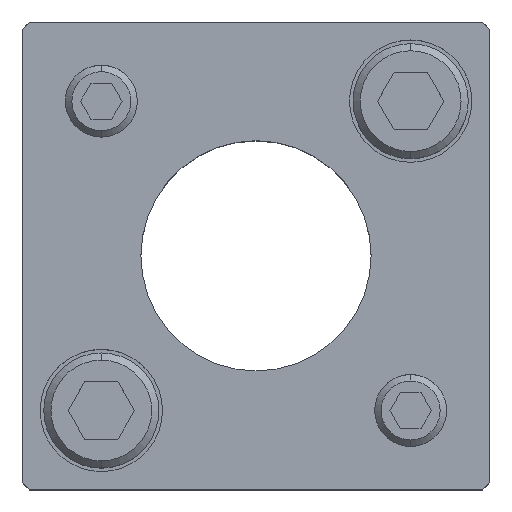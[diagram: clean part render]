
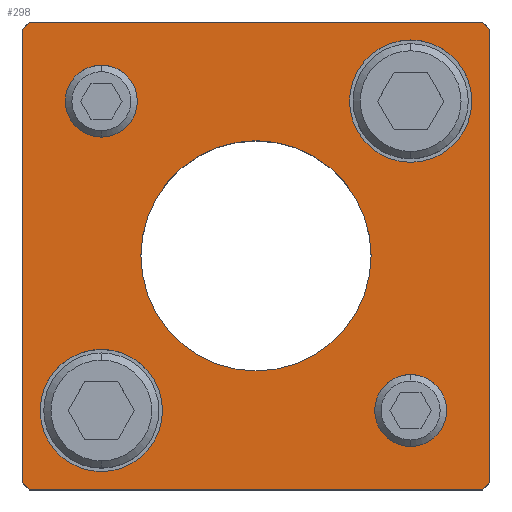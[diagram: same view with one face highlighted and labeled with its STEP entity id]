
A CAD part, top view. The second image highlights one B-rep face of the part: STEP entity #298.
In plain terms, the highlighted planar face has unit normal (0, 0, 1).
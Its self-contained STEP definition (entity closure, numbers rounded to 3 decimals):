
#153=PLANE('',#2436);
#220=FACE_BOUND('',#611,.T.);
#221=FACE_BOUND('',#612,.T.);
#222=FACE_BOUND('',#613,.T.);
#223=FACE_BOUND('',#614,.T.);
#224=FACE_BOUND('',#615,.T.);
#225=FACE_BOUND('',#616,.T.);
#298=ADVANCED_FACE('',(#220,#221,#222,#223,#224,#225),#153,.T.);
#611=EDGE_LOOP('',(#1281,#1282,#1283,#1284,#1285,#1286,#1287,#1288));
#612=EDGE_LOOP('',(#1289,#1290));
#613=EDGE_LOOP('',(#1291,#1292));
#614=EDGE_LOOP('',(#1293,#1294));
#615=EDGE_LOOP('',(#1295,#1296));
#616=EDGE_LOOP('',(#1297,#1298));
#759=LINE('',#3542,#941);
#760=LINE('',#3545,#942);
#761=LINE('',#3547,#943);
#762=LINE('',#3549,#944);
#763=LINE('',#3551,#945);
#764=LINE('',#3553,#946);
#765=LINE('',#3555,#947);
#766=LINE('',#3557,#948);
#941=VECTOR('',#2839,1.);
#942=VECTOR('',#2840,1.);
#943=VECTOR('',#2841,1.);
#944=VECTOR('',#2842,1.);
#945=VECTOR('',#2843,1.);
#946=VECTOR('',#2844,1.);
#947=VECTOR('',#2845,1.);
#948=VECTOR('',#2846,1.);
#1281=ORIENTED_EDGE('',*,*,#2001,.T.);
#1282=ORIENTED_EDGE('',*,*,#2002,.T.);
#1283=ORIENTED_EDGE('',*,*,#2003,.T.);
#1284=ORIENTED_EDGE('',*,*,#2004,.T.);
#1285=ORIENTED_EDGE('',*,*,#2005,.T.);
#1286=ORIENTED_EDGE('',*,*,#2006,.T.);
#1287=ORIENTED_EDGE('',*,*,#2007,.T.);
#1288=ORIENTED_EDGE('',*,*,#2008,.T.);
#1289=ORIENTED_EDGE('',*,*,#2009,.F.);
#1290=ORIENTED_EDGE('',*,*,#2010,.F.);
#1291=ORIENTED_EDGE('',*,*,#2011,.F.);
#1292=ORIENTED_EDGE('',*,*,#2012,.F.);
#1293=ORIENTED_EDGE('',*,*,#1987,.F.);
#1294=ORIENTED_EDGE('',*,*,#1983,.F.);
#1295=ORIENTED_EDGE('',*,*,#1981,.F.);
#1296=ORIENTED_EDGE('',*,*,#1977,.F.);
#1297=ORIENTED_EDGE('',*,*,#2013,.T.);
#1298=ORIENTED_EDGE('',*,*,#2014,.T.);
#1751=VERTEX_POINT('',#3493);
#1752=VERTEX_POINT('',#3494);
#1755=VERTEX_POINT('',#3506);
#1756=VERTEX_POINT('',#3507);
#1767=VERTEX_POINT('',#3543);
#1768=VERTEX_POINT('',#3544);
#1769=VERTEX_POINT('',#3546);
#1770=VERTEX_POINT('',#3548);
#1771=VERTEX_POINT('',#3550);
#1772=VERTEX_POINT('',#3552);
#1773=VERTEX_POINT('',#3554);
#1774=VERTEX_POINT('',#3556);
#1775=VERTEX_POINT('',#3559);
#1776=VERTEX_POINT('',#3560);
#1777=VERTEX_POINT('',#3563);
#1778=VERTEX_POINT('',#3564);
#1779=VERTEX_POINT('',#3567);
#1780=VERTEX_POINT('',#3568);
#1977=EDGE_CURVE('',#1751,#1752,#2247,.T.);
#1981=EDGE_CURVE('',#1752,#1751,#2249,.T.);
#1983=EDGE_CURVE('',#1755,#1756,#2251,.T.);
#1987=EDGE_CURVE('',#1756,#1755,#2253,.T.);
#2001=EDGE_CURVE('',#1767,#1768,#759,.T.);
#2002=EDGE_CURVE('',#1768,#1769,#760,.T.);
#2003=EDGE_CURVE('',#1769,#1770,#761,.T.);
#2004=EDGE_CURVE('',#1770,#1771,#762,.T.);
#2005=EDGE_CURVE('',#1771,#1772,#763,.T.);
#2006=EDGE_CURVE('',#1772,#1773,#764,.T.);
#2007=EDGE_CURVE('',#1773,#1774,#765,.T.);
#2008=EDGE_CURVE('',#1774,#1767,#766,.T.);
#2009=EDGE_CURVE('',#1775,#1776,#2263,.T.);
#2010=EDGE_CURVE('',#1776,#1775,#2264,.T.);
#2011=EDGE_CURVE('',#1777,#1778,#2265,.T.);
#2012=EDGE_CURVE('',#1778,#1777,#2266,.T.);
#2013=EDGE_CURVE('',#1779,#1780,#2267,.T.);
#2014=EDGE_CURVE('',#1780,#1779,#2268,.T.);
#2247=CIRCLE('',#2404,5.);
#2249=CIRCLE('',#2407,5.);
#2251=CIRCLE('',#2411,5.);
#2253=CIRCLE('',#2414,5.);
#2263=CIRCLE('',#2430,8.5);
#2264=CIRCLE('',#2431,8.5);
#2265=CIRCLE('',#2432,8.5);
#2266=CIRCLE('',#2433,8.5);
#2267=CIRCLE('',#2434,16.);
#2268=CIRCLE('',#2435,16.);
#2404=AXIS2_PLACEMENT_3D('',#3492,#2779,#2780);
#2407=AXIS2_PLACEMENT_3D('',#3501,#2787,#2788);
#2411=AXIS2_PLACEMENT_3D('',#3505,#2795,#2796);
#2414=AXIS2_PLACEMENT_3D('',#3514,#2803,#2804);
#2430=AXIS2_PLACEMENT_3D('',#3558,#2847,#2848);
#2431=AXIS2_PLACEMENT_3D('',#3561,#2849,#2850);
#2432=AXIS2_PLACEMENT_3D('',#3562,#2851,#2852);
#2433=AXIS2_PLACEMENT_3D('',#3565,#2853,#2854);
#2434=AXIS2_PLACEMENT_3D('',#3566,#2855,#2856);
#2435=AXIS2_PLACEMENT_3D('',#3569,#2857,#2858);
#2436=AXIS2_PLACEMENT_3D('',#3570,#2859,#2860);
#2779=DIRECTION('',(0.,0.,1.));
#2780=DIRECTION('',(-1.,0.,0.));
#2787=DIRECTION('',(0.,0.,1.));
#2788=DIRECTION('',(1.,0.,0.));
#2795=DIRECTION('',(0.,0.,1.));
#2796=DIRECTION('',(-1.,0.,0.));
#2803=DIRECTION('',(0.,0.,1.));
#2804=DIRECTION('',(1.,0.,0.));
#2839=DIRECTION('',(0.707,0.707,0.));
#2840=DIRECTION('',(0.,1.,0.));
#2841=DIRECTION('',(-0.707,0.707,0.));
#2842=DIRECTION('',(-1.,0.,0.));
#2843=DIRECTION('',(-0.707,-0.707,0.));
#2844=DIRECTION('',(0.,-1.,0.));
#2845=DIRECTION('',(0.707,-0.707,0.));
#2846=DIRECTION('',(1.,0.,0.));
#2847=DIRECTION('',(0.,0.,1.));
#2848=DIRECTION('',(1.,0.,0.));
#2849=DIRECTION('',(0.,0.,1.));
#2850=DIRECTION('',(-1.,0.,0.));
#2851=DIRECTION('',(0.,0.,1.));
#2852=DIRECTION('',(1.,0.,0.));
#2853=DIRECTION('',(0.,0.,1.));
#2854=DIRECTION('',(-1.,0.,0.));
#2855=DIRECTION('',(0.,0.,-1.));
#2856=DIRECTION('',(-1.,0.,0.));
#2857=DIRECTION('',(0.,0.,-1.));
#2858=DIRECTION('',(1.,0.,0.));
#2859=DIRECTION('',(0.,0.,1.));
#2860=DIRECTION('',(-1.,0.,0.));
#3492=CARTESIAN_POINT('',(21.5,-21.5,30.));
#3493=CARTESIAN_POINT('',(21.5,-26.5,30.));
#3494=CARTESIAN_POINT('',(21.5,-16.5,30.));
#3501=CARTESIAN_POINT('',(21.5,-21.5,30.));
#3505=CARTESIAN_POINT('',(-21.5,21.5,30.));
#3506=CARTESIAN_POINT('',(-21.5,16.5,30.));
#3507=CARTESIAN_POINT('',(-21.5,26.5,30.));
#3514=CARTESIAN_POINT('',(-21.5,21.5,30.));
#3542=CARTESIAN_POINT('',(31.5,-32.5,30.));
#3543=CARTESIAN_POINT('',(31.5,-32.5,30.));
#3544=CARTESIAN_POINT('',(32.5,-31.5,30.));
#3545=CARTESIAN_POINT('',(32.5,31.5,30.));
#3546=CARTESIAN_POINT('',(32.5,31.5,30.));
#3547=CARTESIAN_POINT('',(32.5,31.5,30.));
#3548=CARTESIAN_POINT('',(31.5,32.5,30.));
#3549=CARTESIAN_POINT('',(-31.5,32.5,30.));
#3550=CARTESIAN_POINT('',(-31.5,32.5,30.));
#3551=CARTESIAN_POINT('',(-31.5,32.5,30.));
#3552=CARTESIAN_POINT('',(-32.5,31.5,30.));
#3553=CARTESIAN_POINT('',(-32.5,31.5,30.));
#3554=CARTESIAN_POINT('',(-32.5,-31.5,30.));
#3555=CARTESIAN_POINT('',(-32.5,-31.5,30.));
#3556=CARTESIAN_POINT('',(-31.5,-32.5,30.));
#3557=CARTESIAN_POINT('',(-31.5,-32.5,30.));
#3558=CARTESIAN_POINT('',(21.5,21.5,30.));
#3559=CARTESIAN_POINT('',(21.5,30.,30.));
#3560=CARTESIAN_POINT('',(21.5,13.,30.));
#3561=CARTESIAN_POINT('',(21.5,21.5,30.));
#3562=CARTESIAN_POINT('',(-21.5,-21.5,30.));
#3563=CARTESIAN_POINT('',(-21.5,-13.,30.));
#3564=CARTESIAN_POINT('',(-21.5,-30.,30.));
#3565=CARTESIAN_POINT('',(-21.5,-21.5,30.));
#3566=CARTESIAN_POINT('',(0.,0.,30.));
#3567=CARTESIAN_POINT('',(0.,16.,30.));
#3568=CARTESIAN_POINT('',(0.,-16.,30.));
#3569=CARTESIAN_POINT('',(0.,0.,30.));
#3570=CARTESIAN_POINT('',(31.5,-32.5,30.));
